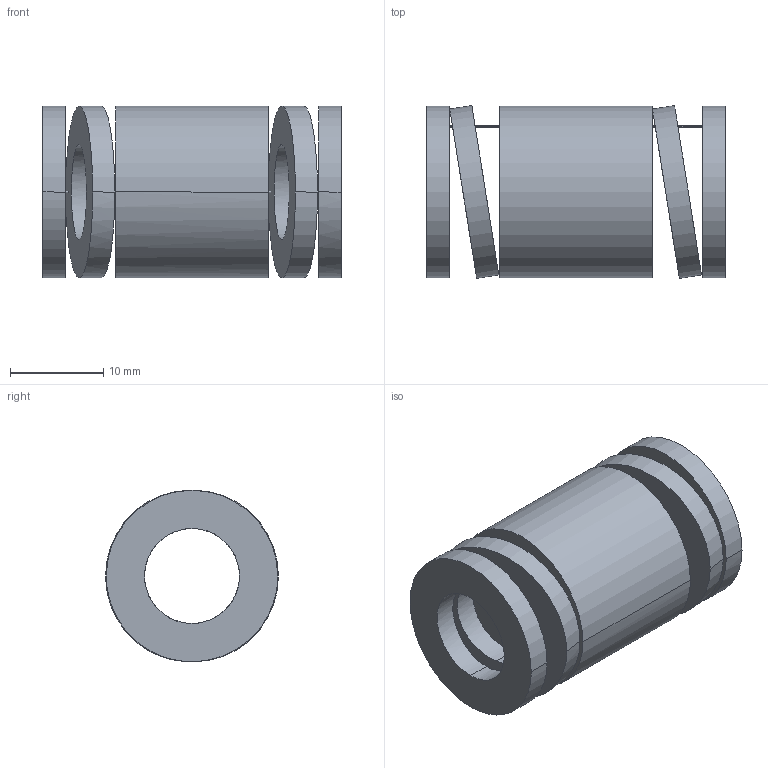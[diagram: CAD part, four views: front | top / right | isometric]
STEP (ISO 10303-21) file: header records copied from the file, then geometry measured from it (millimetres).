
FILE_DESCRIPTION(('CATIA V5 STEP Exchange'),'2;1');
FILE_NAME('C:\Users\Utente\Desktop\IO LAVORO\3D X SITO CF\X SITO\3D files 392B\392-B20-032.stp','2021-08-12T13:59:17+00:00',('none'),('none'),'CATIA Version 5 Release 20 GA (IN-10)','CATIA V5 STEP AP203','none');
FILE_SCHEMA(('CONFIG_CONTROL_DESIGN'));
Length unit declared in the file: millimetre
Products named in the file (1): 392-B20-032
Bounding box: 32 x 18.55 x 18.4 mm (x, y, z)
Volume: 4769.5 mm3; surface area: 4172.2 mm2
Topology: 1 solids, 1 shells, 38 faces, 92 edges, 64 vertices
Faces by surface type: cylinder 28, plane 10
Entity records: 1590 total; most frequent: CARTESIAN_POINT 707, ORIENTED_EDGE 184, DIRECTION 126, EDGE_CURVE 92, VERTEX_POINT 64, AXIS2_PLACEMENT_3D 61, EDGE_LOOP 56, B_SPLINE_CURVE_WITH_KNOTS 42
